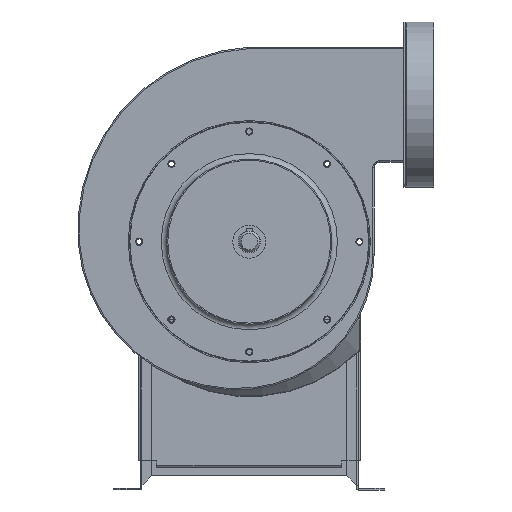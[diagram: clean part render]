
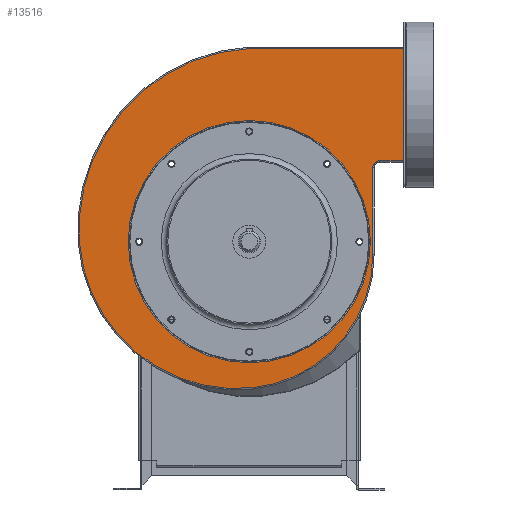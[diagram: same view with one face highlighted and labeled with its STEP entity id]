
A CAD part, left-side view. The second image highlights one B-rep face of the part: STEP entity #13516.
In plain terms, the highlighted planar face has unit normal (-1, 0, 0).
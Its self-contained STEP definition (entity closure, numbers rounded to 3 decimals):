
#260=PLANE('',#14434);
#634=CIRCLE('',#14435,6.2);
#635=CIRCLE('',#14436,164.369);
#636=CIRCLE('',#14437,142.996);
#637=CIRCLE('',#14438,121.604);
#638=CIRCLE('',#14439,2.5);
#639=CIRCLE('',#14440,2.5);
#640=CIRCLE('',#14441,2.5);
#641=CIRCLE('',#14442,2.5);
#642=CIRCLE('',#14443,2.5);
#643=CIRCLE('',#14444,2.5);
#644=CIRCLE('',#14445,2.5);
#645=CIRCLE('',#14446,2.5);
#646=CIRCLE('',#14447,91.5);
#1458=ORIENTED_EDGE('',*,*,#5490,.T.);
#1459=ORIENTED_EDGE('',*,*,#5491,.T.);
#1460=ORIENTED_EDGE('',*,*,#5492,.T.);
#1461=ORIENTED_EDGE('',*,*,#5493,.T.);
#1462=ORIENTED_EDGE('',*,*,#5494,.T.);
#1463=ORIENTED_EDGE('',*,*,#5495,.T.);
#1464=ORIENTED_EDGE('',*,*,#5496,.T.);
#1465=ORIENTED_EDGE('',*,*,#5497,.T.);
#1466=ORIENTED_EDGE('',*,*,#5498,.F.);
#1467=ORIENTED_EDGE('',*,*,#5499,.F.);
#1468=ORIENTED_EDGE('',*,*,#5500,.F.);
#1469=ORIENTED_EDGE('',*,*,#5501,.F.);
#1470=ORIENTED_EDGE('',*,*,#5502,.F.);
#1471=ORIENTED_EDGE('',*,*,#5503,.F.);
#1472=ORIENTED_EDGE('',*,*,#5504,.F.);
#1473=ORIENTED_EDGE('',*,*,#5505,.F.);
#1474=ORIENTED_EDGE('',*,*,#5506,.F.);
#5490=EDGE_CURVE('',#7506,#7507,#634,.F.);
#5491=EDGE_CURVE('',#7507,#7508,#8806,.F.);
#5492=EDGE_CURVE('',#7508,#7509,#8807,.T.);
#5493=EDGE_CURVE('',#7509,#7510,#8808,.T.);
#5494=EDGE_CURVE('',#7510,#7511,#635,.T.);
#5495=EDGE_CURVE('',#7511,#7512,#636,.T.);
#5496=EDGE_CURVE('',#7512,#7513,#637,.T.);
#5497=EDGE_CURVE('',#7513,#7506,#8809,.F.);
#5498=EDGE_CURVE('',#7514,#7514,#638,.T.);
#5499=EDGE_CURVE('',#7515,#7515,#639,.T.);
#5500=EDGE_CURVE('',#7516,#7516,#640,.T.);
#5501=EDGE_CURVE('',#7517,#7517,#641,.T.);
#5502=EDGE_CURVE('',#7518,#7518,#642,.T.);
#5503=EDGE_CURVE('',#7519,#7519,#643,.T.);
#5504=EDGE_CURVE('',#7520,#7520,#644,.T.);
#5505=EDGE_CURVE('',#7521,#7521,#645,.T.);
#5506=EDGE_CURVE('',#7522,#7522,#646,.T.);
#7506=VERTEX_POINT('',#20395);
#7507=VERTEX_POINT('',#20396);
#7508=VERTEX_POINT('',#20398);
#7509=VERTEX_POINT('',#20400);
#7510=VERTEX_POINT('',#20402);
#7511=VERTEX_POINT('',#20404);
#7512=VERTEX_POINT('',#20406);
#7513=VERTEX_POINT('',#20408);
#7514=VERTEX_POINT('',#20411);
#7515=VERTEX_POINT('',#20413);
#7516=VERTEX_POINT('',#20415);
#7517=VERTEX_POINT('',#20417);
#7518=VERTEX_POINT('',#20419);
#7519=VERTEX_POINT('',#20421);
#7520=VERTEX_POINT('',#20423);
#7521=VERTEX_POINT('',#20425);
#7522=VERTEX_POINT('',#20427);
#8806=LINE('',#20397,#9905);
#8807=LINE('',#20399,#9906);
#8808=LINE('',#20401,#9907);
#8809=LINE('',#20409,#9908);
#9905=VECTOR('',#16082,1000.);
#9906=VECTOR('',#16083,1000.);
#9907=VECTOR('',#16084,1000.);
#9908=VECTOR('',#16091,1000.);
#11007=EDGE_LOOP('',(#1458,#1459,#1460,#1461,#1462,#1463,#1464,#1465));
#11008=EDGE_LOOP('',(#1466));
#11009=EDGE_LOOP('',(#1467));
#11010=EDGE_LOOP('',(#1468));
#11011=EDGE_LOOP('',(#1469));
#11012=EDGE_LOOP('',(#1470));
#11013=EDGE_LOOP('',(#1471));
#11014=EDGE_LOOP('',(#1472));
#11015=EDGE_LOOP('',(#1473));
#11016=EDGE_LOOP('',(#1474));
#12084=FACE_BOUND('',#11007,.T.);
#12085=FACE_BOUND('',#11008,.T.);
#12086=FACE_BOUND('',#11009,.T.);
#12087=FACE_BOUND('',#11010,.T.);
#12088=FACE_BOUND('',#11011,.T.);
#12089=FACE_BOUND('',#11012,.T.);
#12090=FACE_BOUND('',#11013,.T.);
#12091=FACE_BOUND('',#11014,.T.);
#12092=FACE_BOUND('',#11015,.T.);
#12093=FACE_BOUND('',#11016,.T.);
#13516=ADVANCED_FACE('',(#12084,#12085,#12086,#12087,#12088,#12089,#12090,
#12091,#12092,#12093),#260,.T.);
#14434=AXIS2_PLACEMENT_3D('',#20393,#16078,#16079);
#14435=AXIS2_PLACEMENT_3D('',#20394,#16080,#16081);
#14436=AXIS2_PLACEMENT_3D('',#20403,#16085,#16086);
#14437=AXIS2_PLACEMENT_3D('',#20405,#16087,#16088);
#14438=AXIS2_PLACEMENT_3D('',#20407,#16089,#16090);
#14439=AXIS2_PLACEMENT_3D('',#20410,#16092,#16093);
#14440=AXIS2_PLACEMENT_3D('',#20412,#16094,#16095);
#14441=AXIS2_PLACEMENT_3D('',#20414,#16096,#16097);
#14442=AXIS2_PLACEMENT_3D('',#20416,#16098,#16099);
#14443=AXIS2_PLACEMENT_3D('',#20418,#16100,#16101);
#14444=AXIS2_PLACEMENT_3D('',#20420,#16102,#16103);
#14445=AXIS2_PLACEMENT_3D('',#20422,#16104,#16105);
#14446=AXIS2_PLACEMENT_3D('',#20424,#16106,#16107);
#14447=AXIS2_PLACEMENT_3D('',#20426,#16108,#16109);
#16078=DIRECTION('',(-1.,0.,0.));
#16079=DIRECTION('',(0.,-1.,0.));
#16080=DIRECTION('',(-1.,0.,0.));
#16081=DIRECTION('',(0.,-1.,0.));
#16082=DIRECTION('',(0.,1.,0.));
#16083=DIRECTION('',(0.,0.,1.));
#16084=DIRECTION('',(0.,1.,0.));
#16085=DIRECTION('',(-1.,0.,0.));
#16086=DIRECTION('',(0.,-1.,0.));
#16087=DIRECTION('',(-1.,0.,0.));
#16088=DIRECTION('',(0.,-1.,0.));
#16089=DIRECTION('',(-1.,0.,0.));
#16090=DIRECTION('',(0.,-1.,0.));
#16091=DIRECTION('',(0.,0.,-1.));
#16092=DIRECTION('',(-1.,0.,0.));
#16093=DIRECTION('',(0.,-1.,0.));
#16094=DIRECTION('',(-1.,0.,0.));
#16095=DIRECTION('',(0.,-1.,0.));
#16096=DIRECTION('',(-1.,0.,0.));
#16097=DIRECTION('',(0.,-1.,0.));
#16098=DIRECTION('',(-1.,0.,0.));
#16099=DIRECTION('',(0.,-1.,0.));
#16100=DIRECTION('',(-1.,0.,0.));
#16101=DIRECTION('',(0.,-1.,0.));
#16102=DIRECTION('',(-1.,0.,0.));
#16103=DIRECTION('',(0.,-1.,0.));
#16104=DIRECTION('',(-1.,0.,0.));
#16105=DIRECTION('',(0.,-1.,0.));
#16106=DIRECTION('',(-1.,0.,0.));
#16107=DIRECTION('',(0.,-1.,0.));
#16108=DIRECTION('',(-1.,0.,0.));
#16109=DIRECTION('',(0.,-1.,0.));
#20393=CARTESIAN_POINT('',(-102.4,-100.859,62.5));
#20394=CARTESIAN_POINT('',(-102.4,-118.351,67.3));
#20395=CARTESIAN_POINT('',(-102.4,-112.151,67.299));
#20396=CARTESIAN_POINT('',(-102.4,-118.351,73.5));
#20397=CARTESIAN_POINT('',(-102.4,-100.859,73.5));
#20398=CARTESIAN_POINT('',(-102.4,-140.,73.5));
#20399=CARTESIAN_POINT('',(-102.4,-140.,62.5));
#20400=CARTESIAN_POINT('',(-102.4,-140.,175.5));
#20401=CARTESIAN_POINT('',(-102.4,-100.859,175.5));
#20402=CARTESIAN_POINT('',(-102.4,0.03,175.5));
#20403=CARTESIAN_POINT('',(-102.4,-9.769,11.423));
#20404=CARTESIAN_POINT('',(-102.4,154.018,-2.389));
#20405=CARTESIAN_POINT('',(-102.4,11.528,9.627));
#20406=CARTESIAN_POINT('',(-102.4,-2.44,-132.685));
#20407=CARTESIAN_POINT('',(-102.4,9.439,-11.662));
#20408=CARTESIAN_POINT('',(-102.4,-112.165,-11.64));
#20409=CARTESIAN_POINT('',(-102.4,-112.151,67.299));
#20410=CARTESIAN_POINT('',(-102.4,0.,100.));
#20411=CARTESIAN_POINT('',(-102.4,-2.5,100.));
#20412=CARTESIAN_POINT('',(-102.4,-70.711,70.711));
#20413=CARTESIAN_POINT('',(-102.4,-73.211,70.711));
#20414=CARTESIAN_POINT('',(-102.4,-100.,0.));
#20415=CARTESIAN_POINT('',(-102.4,-102.5,0.));
#20416=CARTESIAN_POINT('',(-102.4,-70.711,-70.711));
#20417=CARTESIAN_POINT('',(-102.4,-73.211,-70.711));
#20418=CARTESIAN_POINT('',(-102.4,0.,-100.));
#20419=CARTESIAN_POINT('',(-102.4,-2.5,-100.));
#20420=CARTESIAN_POINT('',(-102.4,70.711,-70.711));
#20421=CARTESIAN_POINT('',(-102.4,68.211,-70.711));
#20422=CARTESIAN_POINT('',(-102.4,100.,0.));
#20423=CARTESIAN_POINT('',(-102.4,97.5,0.));
#20424=CARTESIAN_POINT('',(-102.4,70.711,70.711));
#20425=CARTESIAN_POINT('',(-102.4,68.211,70.711));
#20426=CARTESIAN_POINT('',(-102.4,0.,0.));
#20427=CARTESIAN_POINT('',(-102.4,-91.5,0.));
